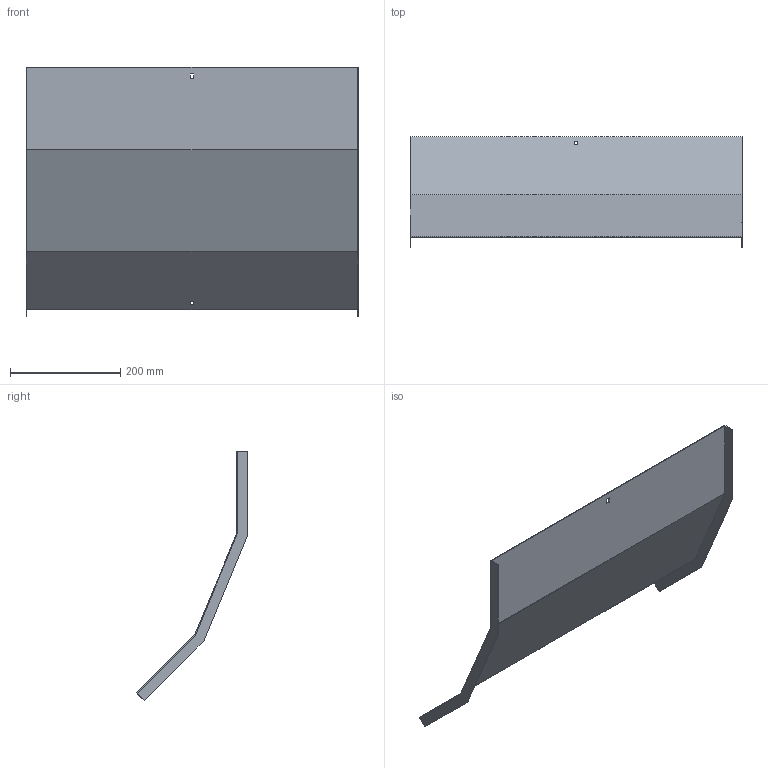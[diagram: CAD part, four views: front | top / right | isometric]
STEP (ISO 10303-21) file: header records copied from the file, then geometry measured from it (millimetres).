
FILE_DESCRIPTION (( 'STEP AP214' ), '1' );
FILE_NAME ('A2X31N5R600X.step', '2025-03-20T09:41:47', ( '' ), ( '' ), 'SwSTEP 2.0', 'SolidWorks 2023', '' );
FILE_SCHEMA (( 'AUTOMOTIVE_DESIGN' ));
Length unit declared in the file: millimetre
Products named in the file (1): A2X31N5R600X
Bounding box: 603 x 201.89 x 453.26 mm (x, y, z)
Volume: 479015 mm3; surface area: 642239.9 mm2
Topology: 1 solids, 1 shells, 26 faces, 72 edges, 48 vertices
Faces by surface type: plane 26
Entity records: 847 total; most frequent: CARTESIAN_POINT 147, ORIENTED_EDGE 144, DIRECTION 126, LINE 72, EDGE_CURVE 72, VECTOR 72, VERTEX_POINT 48, EDGE_LOOP 30
